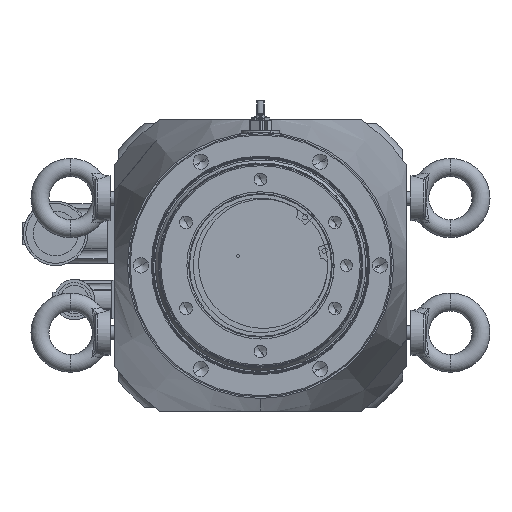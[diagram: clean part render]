
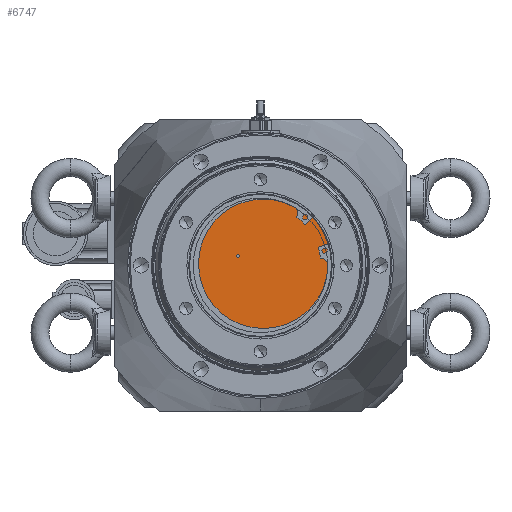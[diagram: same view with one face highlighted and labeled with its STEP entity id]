
A CAD part, front view. The second image highlights one B-rep face of the part: STEP entity #6747.
In plain terms, the highlighted planar face has unit normal (0, -1, 0).
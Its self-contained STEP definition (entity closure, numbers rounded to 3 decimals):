
#1058 = AXIS2_PLACEMENT_3D ( 'NONE', #16773, #2052, #1910 ) ;
#1632 = CARTESIAN_POINT ( 'NONE',  ( -112.139, -290.221, -90.763 ) ) ;
#1910 = DIRECTION ( 'NONE',  ( 0.866, 0., 0.5 ) ) ;
#2052 = DIRECTION ( 'NONE',  ( 0., 1., 0. ) ) ;
#2373 = CARTESIAN_POINT ( 'NONE',  ( -97., -290.221, -97. ) ) ;
#3024 = DIRECTION ( 'NONE',  ( 0., 1., 0. ) ) ;
#5452 = ORIENTED_EDGE ( 'NONE', *, *, #19552, .T. ) ;
#6257 = AXIS2_PLACEMENT_3D ( 'NONE', #2373, #23285, #26292 ) ;
#6747 = ADVANCED_FACE ( 'NONE', ( #22354, #30179 ), #35086, .F. ) ;
#6810 = AXIS2_PLACEMENT_3D ( 'NONE', #8383, #35255, #35127 ) ;
#6824 = CARTESIAN_POINT ( 'NONE',  ( -55.864, -290.221, -73.25 ) ) ;
#8383 = CARTESIAN_POINT ( 'NONE',  ( -112.139, -290.221, -90.763 ) ) ;
#10507 = DIRECTION ( 'NONE',  ( 0., 1., 0. ) ) ;
#10585 = CIRCLE ( 'NONE', #6810, 1. ) ;
#10643 = DIRECTION ( 'NONE',  ( 0.866, 0., 0.5 ) ) ;
#10978 = CIRCLE ( 'NONE', #1058, 47.5 ) ;
#11009 = CIRCLE ( 'NONE', #35400, 47.5 ) ;
#11923 = ORIENTED_EDGE ( 'NONE', *, *, #28404, .F. ) ;
#13533 = ORIENTED_EDGE ( 'NONE', *, *, #27063, .T. ) ;
#14446 = ORIENTED_EDGE ( 'NONE', *, *, #36006, .F. ) ;
#16428 = DIRECTION ( 'NONE',  ( 0.866, 0., 0.5 ) ) ;
#16773 = CARTESIAN_POINT ( 'NONE',  ( -97., -290.221, -97. ) ) ;
#17741 = EDGE_LOOP ( 'NONE', ( #11923, #14446 ) ) ;
#19384 = CARTESIAN_POINT ( 'NONE',  ( -111.273, -290.221, -90.263 ) ) ;
#19552 = EDGE_CURVE ( 'NONE', #37841, #27972, #10585, .T. ) ;
#20333 = CIRCLE ( 'NONE', #20446, 1. ) ;
#20446 = AXIS2_PLACEMENT_3D ( 'NONE', #1632, #10507, #10643 ) ;
#21994 = CARTESIAN_POINT ( 'NONE',  ( -97., -290.221, -97. ) ) ;
#22354 = FACE_OUTER_BOUND ( 'NONE', #17741, .T. ) ;
#23285 = DIRECTION ( 'NONE',  ( 0., 1., 0. ) ) ;
#23692 = CARTESIAN_POINT ( 'NONE',  ( -113.005, -290.221, -91.263 ) ) ;
#24950 = VERTEX_POINT ( 'NONE', #6824 ) ;
#26292 = DIRECTION ( 'NONE',  ( 0.866, 0., 0.5 ) ) ;
#27063 = EDGE_CURVE ( 'NONE', #27972, #37841, #20333, .T. ) ;
#27972 = VERTEX_POINT ( 'NONE', #19384 ) ;
#28404 = EDGE_CURVE ( 'NONE', #28482, #24950, #11009, .T. ) ;
#28482 = VERTEX_POINT ( 'NONE', #30477 ) ;
#30179 = FACE_BOUND ( 'NONE', #30783, .T. ) ;
#30477 = CARTESIAN_POINT ( 'NONE',  ( -138.136, -290.221, -120.75 ) ) ;
#30783 = EDGE_LOOP ( 'NONE', ( #5452, #13533 ) ) ;
#35086 = PLANE ( 'NONE',  #6257 ) ;
#35127 = DIRECTION ( 'NONE',  ( 0.866, 0., 0.5 ) ) ;
#35255 = DIRECTION ( 'NONE',  ( 0., 1., 0. ) ) ;
#35400 = AXIS2_PLACEMENT_3D ( 'NONE', #21994, #3024, #16428 ) ;
#36006 = EDGE_CURVE ( 'NONE', #24950, #28482, #10978, .T. ) ;
#37841 = VERTEX_POINT ( 'NONE', #23692 ) ;
